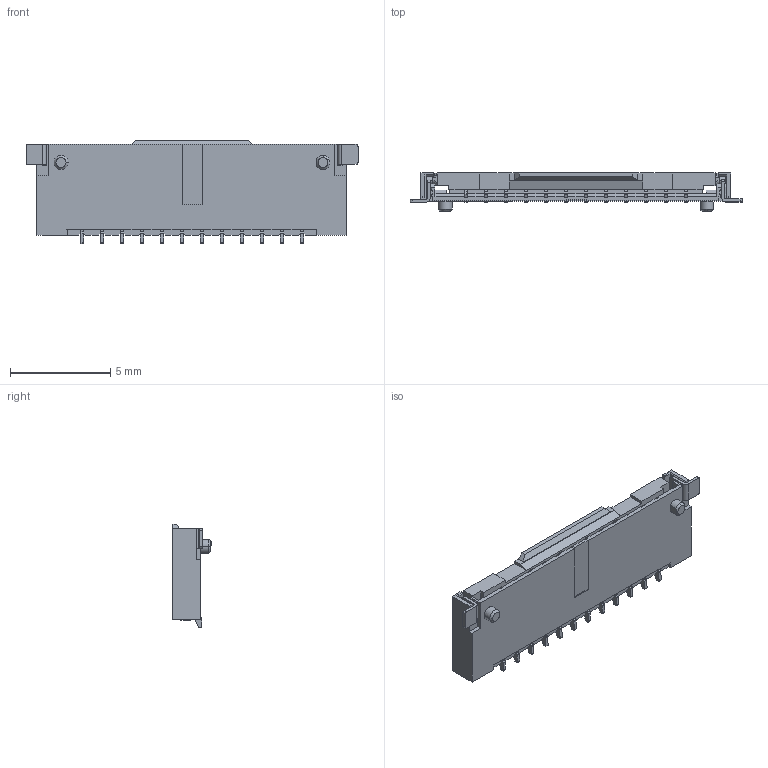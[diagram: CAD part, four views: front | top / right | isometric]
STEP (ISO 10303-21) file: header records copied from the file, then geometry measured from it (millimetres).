
FILE_DESCRIPTION((''),'2;1');
FILE_NAME('51570-ASSY_ASM','2014-12-17T',('k06399'),(''),'PRO/ENGINEER BY PARAMETRIC TECHNOLOGY CORPORATION, 2009360','PRO/ENGINEER BY PARAMETRIC TECHNOLOGY CORPORATION, 2009360','');
FILE_SCHEMA(('CONFIG_CONTROL_DESIGN'));
Length unit declared in the file: millimetre
Products named in the file (1): 51570-ASSY_ASM
Bounding box: 16.6 x 1.9 x 5.15 mm (x, y, z)
Volume: 73.8 mm3; surface area: 477.7 mm2
Topology: 1 solids, 1 shells, 1177 faces, 3732 edges, 2469 vertices
Faces by surface type: plane 849, cylinder 322, cone 6
Entity records: 41341 total; most frequent: CARTESIAN_POINT 7470, ORIENTED_EDGE 7464, DIRECTION 6768, EDGE_CURVE 3732, VECTOR 2992, LINE 2992, VERTEX_POINT 2469, AXIS2_PLACEMENT_3D 1888
